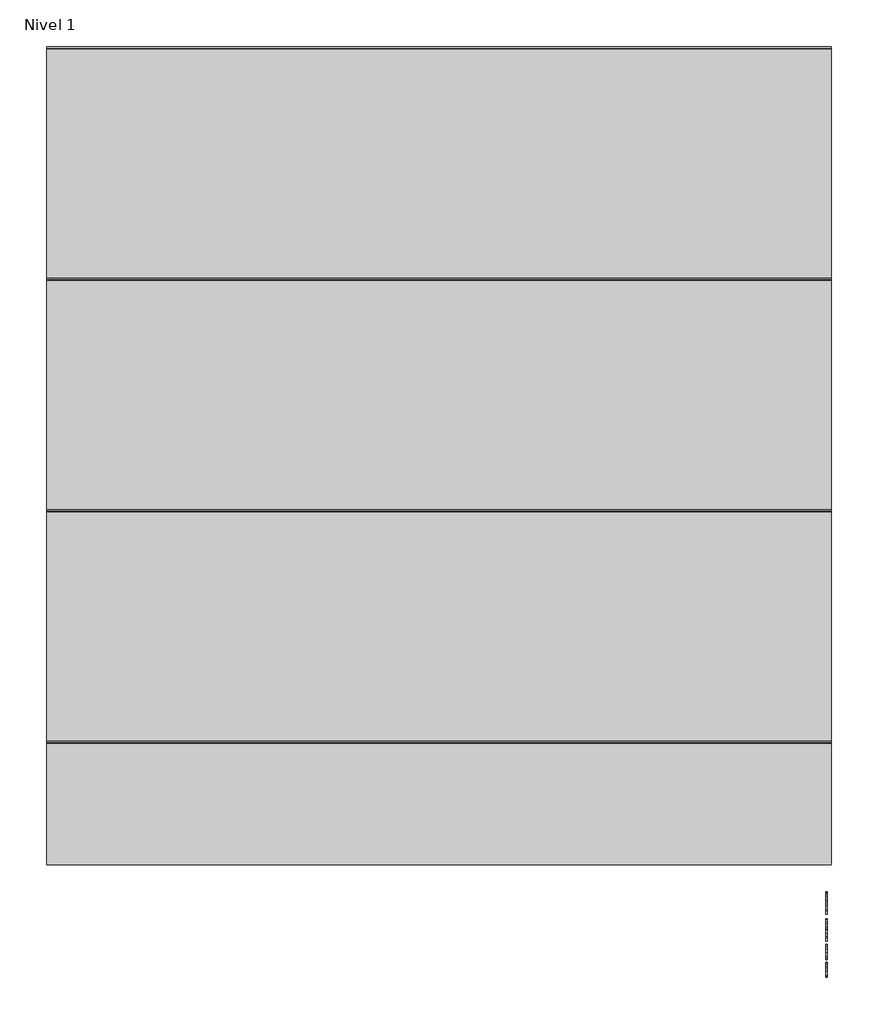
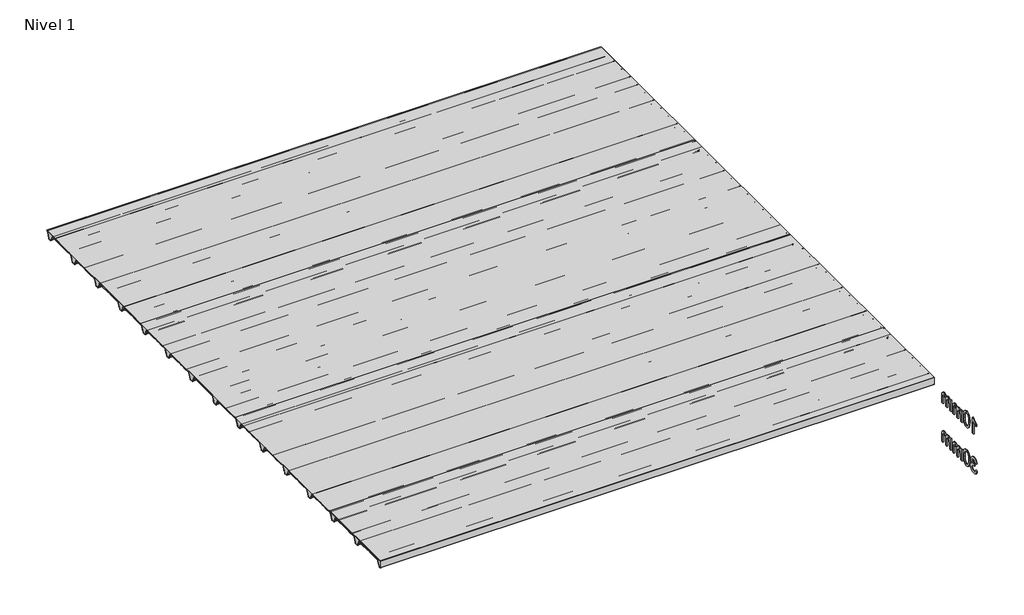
# One storey, incomplete: 4 plates, 2 proxies.
"""IFC4 building model written with IfcOpenShell, lengths in millimetres."""

from ifc_helpers import new_model, si_unit, frame, origin, place, context, project, spatial, polyline, outline, extrude, transform, mapped, element, save
from components import plate_10_mm_99b3fad9, plate_10_mm_2f83bd50, plate_10_mm_efb9fa4d

model = new_model("IFC4")

# Units and contexts
model_context = context("Model", 3, world=origin())
ifc_project = project(units=[si_unit("LENGTHUNIT", "METRE", prefix="MILLI")], contexts=[model_context])

# Site, building, storey
site = spatial("IfcSite", under=ifc_project)
building = spatial("IfcBuilding", under=site)
storey = spatial("IfcBuildingStorey", under=building, Name="Nivel 1", Elevation=0.0)

# Proxies
placement = place(None, origin())
element("IfcBuildingElementProxy", 1, Name="100mm Arial", ObjectType="100mm Arial", at=placement, inside=storey, context=model_context, shape_type="SweptSolid", body=[
    extrude(outline(polyline([(14858.722162, -567.141573), (14846.1651232, -567.141573), (14846.1651232, -488.8562845), (14834.270272, -497.3298331), (14821.0510457, -503.6696661), (14821.0510457, -491.7993404), (14839.4574082, -480.051642), (14850.6287581, -466.6852629), (14858.722162, -466.6852629), (14858.722162, -567.141573)])), frame((9557.0230098, 0.0, 0.0), z_axis=(1.0, 0.0, 0.0), x_axis=(0.0, 1.0, 0.0)), (0.0, 0.0, 1.0), 5.0),
    extrude(outline(polyline([(14888.5451291, -517.7227583), (14892.2362118, -488.8194963), (14903.1990952, -472.1544419), (14921.5073558, -466.6852629), (14936.1735847, -469.9226244), (14946.3026023, -479.2545644), (14952.1887142, -494.116997), (14954.4695826, -517.7227583), (14950.8152881, -546.5033931), (14939.8891929, -563.2052357), (14931.6578332, -567.3347111), (14921.5073558, -568.7112029), (14908.4598077, -566.3199699), (14898.5515193, -559.146271), (14891.0467266, -542.1562542), (14888.5451291, -517.7227583)]), holes=[polyline([(14901.1021678, -517.6982329), (14902.5736958, -537.4504303), (14906.9882798, -548.8823633), (14913.5611047, -554.3362139), (14921.5073558, -556.1541641), (14929.4536069, -554.3300825), (14936.0264319, -548.8578379), (14940.4410159, -537.4197735), (14941.9125438, -517.6982329), (14940.4900668, -498.3905595), (14936.2226356, -486.8697217), (14929.6620734, -481.1491567), (14921.360203, -479.2423016), (14913.4997911, -480.9222961), (14907.1844835, -485.9622794), (14902.6227467, -498.2004871), (14901.1021678, -517.6982329)])]), frame((9557.0230098, 0.0, 0.0), z_axis=(1.0, 0.0, 0.0), x_axis=(0.0, 1.0, 0.0)), (0.0, 0.0, 1.0), 5.0),
    extrude(outline(polyline([(14968.5962512, -567.141573), (14968.5962512, -493.3689703), (14981.15329, -493.3689703), (14981.15329, -505.5090761), (14989.7862541, -495.5639995), (15002.0735128, -491.7993404), (15014.655077, -495.6375759), (15021.5712585, -506.3919929), (15031.3691823, -495.4475035), (15043.7422801, -491.7993404), (15053.181519, -493.3168536), (15060.1620798, -497.8693933), (15064.4754962, -505.5795868), (15065.9133017, -516.5700614), (15065.9133017, -567.141573), (15053.3562629, -567.141573), (15053.3562629, -521.965664), (15052.1913033, -511.4810272), (15047.972923, -506.3184165), (15040.7992241, -504.3563792), (15028.4506518, -509.3840998), (15024.7626348, -515.9262679), (15023.5332958, -525.4973312), (15023.5332958, -567.141573), (15010.9762571, -567.141573), (15010.9762571, -520.5677124), (15008.0699893, -508.4030811), (14998.5418456, -504.3563792), (14989.2466939, -507.0541805), (14983.0662764, -514.9513806), (14981.15329, -529.9364406), (14981.15329, -567.141573), (14968.5962512, -567.141573)])), frame((9557.0230098, 0.0, 0.0), z_axis=(1.0, 0.0, 0.0), x_axis=(0.0, 1.0, 0.0)), (0.0, 0.0, 1.0), 5.0),
    extrude(outline(polyline([(15084.7488598, -567.141573), (15084.7488598, -493.3689703), (15097.3058986, -493.3689703), (15097.3058986, -505.5090761), (15105.9388628, -495.5639995), (15118.2261214, -491.7993404), (15130.8076856, -495.6375759), (15137.7238671, -506.3919929), (15147.5217909, -495.4475035), (15159.8948887, -491.7993404), (15169.3341276, -493.3168536), (15176.3146884, -497.8693933), (15180.6281048, -505.5795868), (15182.0659103, -516.5700614), (15182.0659103, -567.141573), (15169.5088715, -567.141573), (15169.5088715, -521.965664), (15168.3439119, -511.4810272), (15164.1255317, -506.3184165), (15156.9518327, -504.3563792), (15144.6032604, -509.3840998), (15140.9152434, -515.9262679), (15139.6859044, -525.4973312), (15139.6859044, -567.141573), (15127.1288657, -567.141573), (15127.1288657, -520.5677124), (15124.2225979, -508.4030811), (15114.6944542, -504.3563792), (15105.3993025, -507.0541805), (15099.218885, -514.9513806), (15097.3058986, -529.9364406), (15097.3058986, -567.141573), (15084.7488598, -567.141573)])), frame((9557.0230098, 0.0, 0.0), z_axis=(1.0, 0.0, 0.0), x_axis=(0.0, 1.0, 0.0)), (0.0, 0.0, 1.0), 5.0),
])
element("IfcBuildingElementProxy", 2, Name="100mm Arial", ObjectType="100mm Arial", at=placement, inside=storey, context=model_context, shape_type="SweptSolid", body=[
    extrude(outline(polyline([(14811.6332666, -790.4578656), (14824.1903054, -788.8882358), (14831.1187496, -802.1074622), (14844.0804586, -806.1541641), (14852.6888973, -804.7623439), (14859.3352987, -800.5868832), (14865.0006814, -786.8035712), (14859.3843496, -773.8173367), (14845.1105282, -768.6792515), (14836.3058858, -770.0526776), (14837.7038373, -757.4956389), (14839.7149256, -757.6427917), (14853.9642215, -754.0375481), (14858.7098993, -749.4635487), (14860.2917918, -742.9520373), (14855.7055296, -733.1295881), (14843.8842549, -729.2423016), (14831.9158273, -733.1663763), (14825.7599352, -744.9386001), (14813.2028965, -743.3689703), (14816.9001105, -732.0933871), (14823.4790669, -723.6750208), (14832.479913, -718.4327024), (14843.4427965, -716.6852629), (14858.5872719, -720.1310909), (14869.1822734, -729.54887), (14872.8488306, -742.2162733), (14869.3662144, -753.7922935), (14859.0655185, -762.1064266), (14872.7507287, -770.6903398), (14877.5577201, -787.0243004), (14875.1542244, -799.2625081), (14867.9437373, -809.4896275), (14857.0605616, -816.405809), (14843.6390002, -818.7112029), (14831.4988943, -816.7430342), (14821.6151314, -810.8385282), (14814.7418695, -801.8070252), (14811.6332666, -790.4578656)])), frame((9557.0230098, 0.0, 0.0), z_axis=(1.0, 0.0, 0.0), x_axis=(0.0, 1.0, 0.0)), (0.0, 0.0, 1.0), 5.0),
    extrude(outline(polyline([(14888.5451291, -767.7227583), (14892.2362118, -738.8194963), (14903.1990952, -722.1544419), (14921.5073558, -716.6852629), (14936.1735847, -719.9226244), (14946.3026023, -729.2545644), (14952.1887142, -744.116997), (14954.4695826, -767.7227583), (14950.8152881, -796.5033931), (14939.8891929, -813.2052357), (14931.6578332, -817.3347111), (14921.5073558, -818.7112029), (14908.4598077, -816.3199699), (14898.5515193, -809.146271), (14891.0467266, -792.1562542), (14888.5451291, -767.7227583)]), holes=[polyline([(14901.1021678, -767.6982329), (14902.5736958, -787.4504303), (14906.9882798, -798.8823633), (14913.5611047, -804.3362139), (14921.5073558, -806.1541641), (14929.4536069, -804.3300825), (14936.0264319, -798.8578379), (14940.4410159, -787.4197735), (14941.9125438, -767.6982329), (14940.4900668, -748.3905595), (14936.2226356, -736.8697217), (14929.6620734, -731.1491567), (14921.360203, -729.2423016), (14913.4997911, -730.9222961), (14907.1844835, -735.9622794), (14902.6227467, -748.2004871), (14901.1021678, -767.6982329)])]), frame((9557.0230098, 0.0, 0.0), z_axis=(1.0, 0.0, 0.0), x_axis=(0.0, 1.0, 0.0)), (0.0, 0.0, 1.0), 5.0),
    extrude(outline(polyline([(14968.5962512, -817.141573), (14968.5962512, -743.3689703), (14981.15329, -743.3689703), (14981.15329, -755.5090761), (14989.7862541, -745.5639995), (15002.0735128, -741.7993404), (15014.655077, -745.6375759), (15021.5712585, -756.3919929), (15031.3691823, -745.4475035), (15043.7422801, -741.7993404), (15053.181519, -743.3168536), (15060.1620798, -747.8693933), (15064.4754962, -755.5795868), (15065.9133017, -766.5700614), (15065.9133017, -817.141573), (15053.3562629, -817.141573), (15053.3562629, -771.965664), (15052.1913033, -761.4810272), (15047.972923, -756.3184165), (15040.7992241, -754.3563792), (15028.4506518, -759.3840998), (15024.7626348, -765.9262679), (15023.5332958, -775.4973312), (15023.5332958, -817.141573), (15010.9762571, -817.141573), (15010.9762571, -770.5677124), (15008.0699893, -758.4030811), (14998.5418456, -754.3563792), (14989.2466939, -757.0541805), (14983.0662764, -764.9513806), (14981.15329, -779.9364406), (14981.15329, -817.141573), (14968.5962512, -817.141573)])), frame((9557.0230098, 0.0, 0.0), z_axis=(1.0, 0.0, 0.0), x_axis=(0.0, 1.0, 0.0)), (0.0, 0.0, 1.0), 5.0),
    extrude(outline(polyline([(15084.7488598, -817.141573), (15084.7488598, -743.3689703), (15097.3058986, -743.3689703), (15097.3058986, -755.5090761), (15105.9388628, -745.5639995), (15118.2261214, -741.7993404), (15130.8076856, -745.6375759), (15137.7238671, -756.3919929), (15147.5217909, -745.4475035), (15159.8948887, -741.7993404), (15169.3341276, -743.3168536), (15176.3146884, -747.8693933), (15180.6281048, -755.5795868), (15182.0659103, -766.5700614), (15182.0659103, -817.141573), (15169.5088715, -817.141573), (15169.5088715, -771.965664), (15168.3439119, -761.4810272), (15164.1255317, -756.3184165), (15156.9518327, -754.3563792), (15144.6032604, -759.3840998), (15140.9152434, -765.9262679), (15139.6859044, -775.4973312), (15139.6859044, -817.141573), (15127.1288657, -817.141573), (15127.1288657, -770.5677124), (15124.2225979, -758.4030811), (15114.6944542, -754.3563792), (15105.3993025, -757.0541805), (15099.218885, -764.9513806), (15097.3058986, -779.9364406), (15097.3058986, -817.141573), (15084.7488598, -817.141573)])), frame((9557.0230098, 0.0, 0.0), z_axis=(1.0, 0.0, 0.0), x_axis=(0.0, 1.0, 0.0)), (0.0, 0.0, 1.0), 5.0),
])

# Plates
plate_10_mm_shape = plate_10_mm_99b3fad9(model_context)
plate_10_mm_2_shape = plate_10_mm_2f83bd50(model_context)
element("IfcPlate", 3, ObjectType="HIANSA PANEL - H20.F01.011-PANELES DE CUBIERTA SIN TAPAJUNTA - EASY BOARD 5GR - Panel de Muro Cortina : 10 mm", at=placement, inside=storey, context=model_context, shape_type="MappedRepresentation", body=[
    mapped(plate_10_mm_shape, transform((9579.0356399, 18298.3330794, -529.5962409), x_axis=(0.0, -1.0, 0.0), y_axis=(0.0, 0.0, 1.0), z_axis=(-1.0, 0.0, 0.0))),
    mapped(plate_10_mm_2_shape, transform((9579.0356399, 18298.3330794, -529.5962409), x_axis=(0.0, -1.0, 0.0), y_axis=(0.0, 0.0, 1.0), z_axis=(-1.0, 0.0, 0.0))),
])
element("IfcPlate", 4, ObjectType="HIANSA PANEL - H20.F01.011-PANELES DE CUBIERTA SIN TAPAJUNTA - EASY BOARD 5GR - Panel de Muro Cortina : 10 mm", at=placement, inside=storey, context=model_context, shape_type="MappedRepresentation", body=[
    mapped(plate_10_mm_shape, transform((9579.0356399, 17298.3330793, -529.5962409), x_axis=(0.0, -1.0, 0.0), y_axis=(0.0, 0.0, 1.0), z_axis=(-1.0, 0.0, 0.0))),
    mapped(plate_10_mm_2_shape, transform((9579.0356399, 17298.3330793, -529.5962409), x_axis=(0.0, -1.0, 0.0), y_axis=(0.0, 0.0, 1.0), z_axis=(-1.0, 0.0, 0.0))),
])
element("IfcPlate", 5, ObjectType="HIANSA PANEL - H20.F01.011-PANELES DE CUBIERTA SIN TAPAJUNTA - EASY BOARD 5GR - Panel de Muro Cortina : 10 mm", at=placement, inside=storey, context=model_context, shape_type="MappedRepresentation", body=[
    mapped(plate_10_mm_shape, transform((9579.0356399, 16298.3330793, -529.5962409), x_axis=(0.0, -1.0, 0.0), y_axis=(0.0, 0.0, 1.0), z_axis=(-1.0, 0.0, 0.0))),
    mapped(plate_10_mm_2_shape, transform((9579.0356399, 16298.3330793, -529.5962409), x_axis=(0.0, -1.0, 0.0), y_axis=(0.0, 0.0, 1.0), z_axis=(-1.0, 0.0, 0.0))),
])
plate_10_mm_3_shape = plate_10_mm_efb9fa4d(model_context)
element("IfcPlate", 6, ObjectType="HIANSA PANEL - H20.F01.011-PANELES DE CUBIERTA SIN TAPAJUNTA - EASY BOARD 5GR - Panel de Muro Cortina : 10 mm", at=placement, inside=storey, context=model_context, shape_type="MappedRepresentation", body=[
    mapped(plate_10_mm_3_shape, transform((9579.0356399, 15548.3330794, -529.5962409), x_axis=(0.0, -1.0, 0.0), y_axis=(0.0, 0.0, 1.0), z_axis=(-1.0, 0.0, 0.0))),
])

save(model, "model.ifc")
